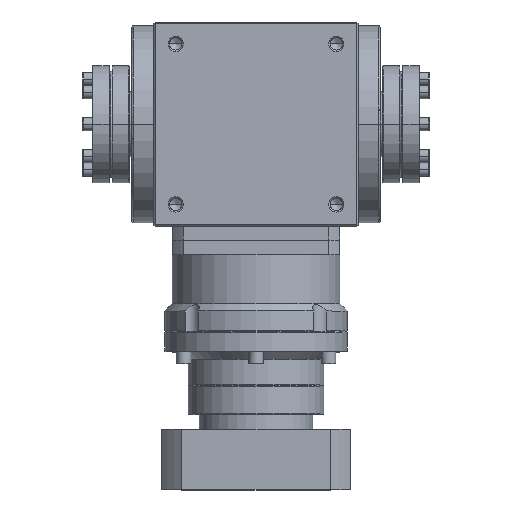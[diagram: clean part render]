
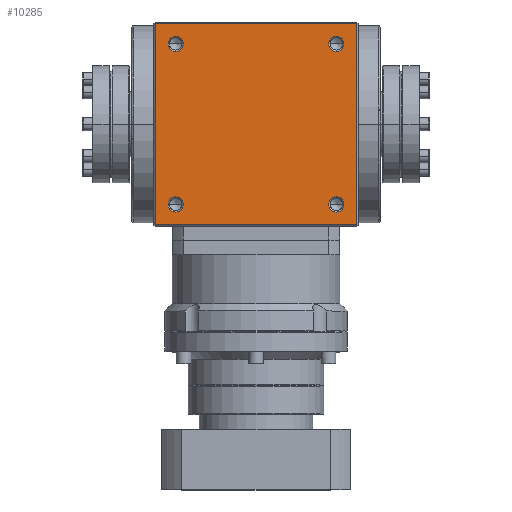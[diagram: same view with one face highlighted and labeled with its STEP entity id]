
A CAD part, top view. The second image highlights one B-rep face of the part: STEP entity #10285.
In plain terms, the highlighted planar face has unit normal (0, 0, 1).
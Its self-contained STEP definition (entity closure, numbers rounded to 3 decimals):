
#79 = EDGE_CURVE ( 'NONE', #10642, #17873, #22176, .T. ) ;
#385 = CIRCLE ( 'NONE', #16741, 5.25 ) ;
#705 = ORIENTED_EDGE ( 'NONE', *, *, #27917, .F. ) ;
#784 = CIRCLE ( 'NONE', #26684, 5.25 ) ;
#876 = AXIS2_PLACEMENT_3D ( 'NONE', #20308, #15496, #24160 ) ;
#1133 = VECTOR ( 'NONE', #18401, 1000. ) ;
#1334 = VECTOR ( 'NONE', #16592, 1000. ) ;
#1603 = ORIENTED_EDGE ( 'NONE', *, *, #22812, .T. ) ;
#2050 = ORIENTED_EDGE ( 'NONE', *, *, #5659, .F. ) ;
#2498 = CARTESIAN_POINT ( 'NONE',  ( 55., -55., 70. ) ) ;
#2519 = EDGE_CURVE ( 'NONE', #4470, #20418, #23651, .T. ) ;
#2793 = DIRECTION ( 'NONE',  ( 0., 0., 1. ) ) ;
#2967 = PLANE ( 'NONE',  #876 ) ;
#3345 = EDGE_LOOP ( 'NONE', ( #15349, #16025 ) ) ;
#4314 = VERTEX_POINT ( 'NONE', #25096 ) ;
#4470 = VERTEX_POINT ( 'NONE', #10566 ) ;
#5169 = ORIENTED_EDGE ( 'NONE', *, *, #18662, .T. ) ;
#5659 = EDGE_CURVE ( 'NONE', #27334, #13955, #784, .T. ) ;
#5833 = DIRECTION ( 'NONE',  ( -1., 0., 0. ) ) ;
#5990 = ORIENTED_EDGE ( 'NONE', *, *, #24289, .F. ) ;
#6326 = CIRCLE ( 'NONE', #12688, 5.25 ) ;
#6389 = DIRECTION ( 'NONE',  ( 1., 0., 0. ) ) ;
#6451 = VERTEX_POINT ( 'NONE', #23114 ) ;
#6453 = AXIS2_PLACEMENT_3D ( 'NONE', #11981, #26643, #13841 ) ;
#6517 = CARTESIAN_POINT ( 'NONE',  ( 60.25, -55., 70. ) ) ;
#6764 = DIRECTION ( 'NONE',  ( 0., 0., 1. ) ) ;
#7090 = CARTESIAN_POINT ( 'NONE',  ( -55., -55., 70. ) ) ;
#7177 = AXIS2_PLACEMENT_3D ( 'NONE', #20133, #17993, #26249 ) ;
#7394 = CARTESIAN_POINT ( 'NONE',  ( 60.25, 55., 70. ) ) ;
#7552 = CARTESIAN_POINT ( 'NONE',  ( -49.75, -55., 70. ) ) ;
#8412 = EDGE_LOOP ( 'NONE', ( #14210, #5990 ) ) ;
#8415 = ORIENTED_EDGE ( 'NONE', *, *, #2519, .F. ) ;
#8511 = CARTESIAN_POINT ( 'NONE',  ( -55., 55., 70. ) ) ;
#8582 = VERTEX_POINT ( 'NONE', #7552 ) ;
#9119 = AXIS2_PLACEMENT_3D ( 'NONE', #16878, #16311, #18432 ) ;
#9305 = CARTESIAN_POINT ( 'NONE',  ( 69., -69., 70. ) ) ;
#9422 = EDGE_CURVE ( 'NONE', #13843, #8582, #16466, .T. ) ;
#9650 = FACE_BOUND ( 'NONE', #17711, .T. ) ;
#10214 = EDGE_CURVE ( 'NONE', #8582, #13843, #6326, .T. ) ;
#10285 = ADVANCED_FACE ( 'NONE', ( #18315, #9650, #13770, #22436, #27007 ), #2967, .F. ) ;
#10566 = CARTESIAN_POINT ( 'NONE',  ( 49.75, 55., 70. ) ) ;
#10638 = CARTESIAN_POINT ( 'NONE',  ( 49.75, -55., 70. ) ) ;
#10642 = VERTEX_POINT ( 'NONE', #11697 ) ;
#11161 = DIRECTION ( 'NONE',  ( 1., 0., 0. ) ) ;
#11697 = CARTESIAN_POINT ( 'NONE',  ( -69., -69., 70. ) ) ;
#11822 = CARTESIAN_POINT ( 'NONE',  ( -69., 69., 70. ) ) ;
#11981 = CARTESIAN_POINT ( 'NONE',  ( -55., -55., 70. ) ) ;
#12639 = CIRCLE ( 'NONE', #7177, 5.25 ) ;
#12652 = CARTESIAN_POINT ( 'NONE',  ( 55., -55., 70. ) ) ;
#12688 = AXIS2_PLACEMENT_3D ( 'NONE', #7090, #22302, #15770 ) ;
#12794 = DIRECTION ( 'NONE',  ( 0., 0., 1. ) ) ;
#13501 = CIRCLE ( 'NONE', #28026, 5.25 ) ;
#13770 = FACE_BOUND ( 'NONE', #3345, .T. ) ;
#13841 = DIRECTION ( 'NONE',  ( 1., 0., 0. ) ) ;
#13843 = VERTEX_POINT ( 'NONE', #21331 ) ;
#13955 = VERTEX_POINT ( 'NONE', #6517 ) ;
#14210 = ORIENTED_EDGE ( 'NONE', *, *, #14366, .F. ) ;
#14366 = EDGE_CURVE ( 'NONE', #19918, #4314, #385, .T. ) ;
#14381 = LINE ( 'NONE', #22902, #23312 ) ;
#14490 = CARTESIAN_POINT ( 'NONE',  ( 69., -69., 70. ) ) ;
#14929 = ORIENTED_EDGE ( 'NONE', *, *, #79, .T. ) ;
#15349 = ORIENTED_EDGE ( 'NONE', *, *, #10214, .F. ) ;
#15496 = DIRECTION ( 'NONE',  ( 0., 0., -1. ) ) ;
#15770 = DIRECTION ( 'NONE',  ( 1., 0., 0. ) ) ;
#16025 = ORIENTED_EDGE ( 'NONE', *, *, #9422, .F. ) ;
#16311 = DIRECTION ( 'NONE',  ( 0., 0., 1. ) ) ;
#16466 = CIRCLE ( 'NONE', #6453, 5.25 ) ;
#16592 = DIRECTION ( 'NONE',  ( 0., -1., 0. ) ) ;
#16729 = VECTOR ( 'NONE', #19897, 1000. ) ;
#16741 = AXIS2_PLACEMENT_3D ( 'NONE', #21435, #6764, #19845 ) ;
#16878 = CARTESIAN_POINT ( 'NONE',  ( 55., 55., 70. ) ) ;
#17193 = DIRECTION ( 'NONE',  ( 0., 0., 1. ) ) ;
#17296 = EDGE_CURVE ( 'NONE', #6451, #17307, #14381, .T. ) ;
#17307 = VERTEX_POINT ( 'NONE', #11822 ) ;
#17711 = EDGE_LOOP ( 'NONE', ( #17958, #8415 ) ) ;
#17873 = VERTEX_POINT ( 'NONE', #14490 ) ;
#17913 = CARTESIAN_POINT ( 'NONE',  ( -69., -69., 70. ) ) ;
#17958 = ORIENTED_EDGE ( 'NONE', *, *, #23093, .F. ) ;
#17993 = DIRECTION ( 'NONE',  ( 0., 0., 1. ) ) ;
#18315 = FACE_BOUND ( 'NONE', #8412, .T. ) ;
#18401 = DIRECTION ( 'NONE',  ( 0., 1., 0. ) ) ;
#18432 = DIRECTION ( 'NONE',  ( 1., 0., 0. ) ) ;
#18444 = LINE ( 'NONE', #20863, #1334 ) ;
#18662 = EDGE_CURVE ( 'NONE', #17873, #6451, #27229, .T. ) ;
#19845 = DIRECTION ( 'NONE',  ( 1., 0., 0. ) ) ;
#19897 = DIRECTION ( 'NONE',  ( 1., 0., 0. ) ) ;
#19918 = VERTEX_POINT ( 'NONE', #24537 ) ;
#20133 = CARTESIAN_POINT ( 'NONE',  ( 55., 55., 70. ) ) ;
#20308 = CARTESIAN_POINT ( 'NONE',  ( 69., -69., 70. ) ) ;
#20418 = VERTEX_POINT ( 'NONE', #7394 ) ;
#20863 = CARTESIAN_POINT ( 'NONE',  ( -69., 69., 70. ) ) ;
#21331 = CARTESIAN_POINT ( 'NONE',  ( -60.25, -55., 70. ) ) ;
#21435 = CARTESIAN_POINT ( 'NONE',  ( -55., 55., 70. ) ) ;
#21598 = EDGE_LOOP ( 'NONE', ( #705, #2050 ) ) ;
#22130 = ORIENTED_EDGE ( 'NONE', *, *, #17296, .T. ) ;
#22176 = LINE ( 'NONE', #17913, #16729 ) ;
#22302 = DIRECTION ( 'NONE',  ( 0., 0., 1. ) ) ;
#22436 = FACE_BOUND ( 'NONE', #21598, .T. ) ;
#22509 = EDGE_LOOP ( 'NONE', ( #14929, #5169, #22130, #1603 ) ) ;
#22812 = EDGE_CURVE ( 'NONE', #17307, #10642, #18444, .T. ) ;
#22902 = CARTESIAN_POINT ( 'NONE',  ( 69., 69., 70. ) ) ;
#23093 = EDGE_CURVE ( 'NONE', #20418, #4470, #12639, .T. ) ;
#23114 = CARTESIAN_POINT ( 'NONE',  ( 69., 69., 70. ) ) ;
#23312 = VECTOR ( 'NONE', #5833, 1000. ) ;
#23313 = DIRECTION ( 'NONE',  ( 1., 0., 0. ) ) ;
#23651 = CIRCLE ( 'NONE', #9119, 5.25 ) ;
#24160 = DIRECTION ( 'NONE',  ( -1., 0., 0. ) ) ;
#24289 = EDGE_CURVE ( 'NONE', #4314, #19918, #13501, .T. ) ;
#24537 = CARTESIAN_POINT ( 'NONE',  ( -49.75, 55., 70. ) ) ;
#25096 = CARTESIAN_POINT ( 'NONE',  ( -60.25, 55., 70. ) ) ;
#26249 = DIRECTION ( 'NONE',  ( 1., 0., 0. ) ) ;
#26313 = CIRCLE ( 'NONE', #27674, 5.25 ) ;
#26643 = DIRECTION ( 'NONE',  ( 0., 0., 1. ) ) ;
#26684 = AXIS2_PLACEMENT_3D ( 'NONE', #12652, #12794, #6389 ) ;
#27007 = FACE_OUTER_BOUND ( 'NONE', #22509, .T. ) ;
#27229 = LINE ( 'NONE', #9305, #1133 ) ;
#27334 = VERTEX_POINT ( 'NONE', #10638 ) ;
#27674 = AXIS2_PLACEMENT_3D ( 'NONE', #2498, #2793, #11161 ) ;
#27917 = EDGE_CURVE ( 'NONE', #13955, #27334, #26313, .T. ) ;
#28026 = AXIS2_PLACEMENT_3D ( 'NONE', #8511, #17193, #23313 ) ;
